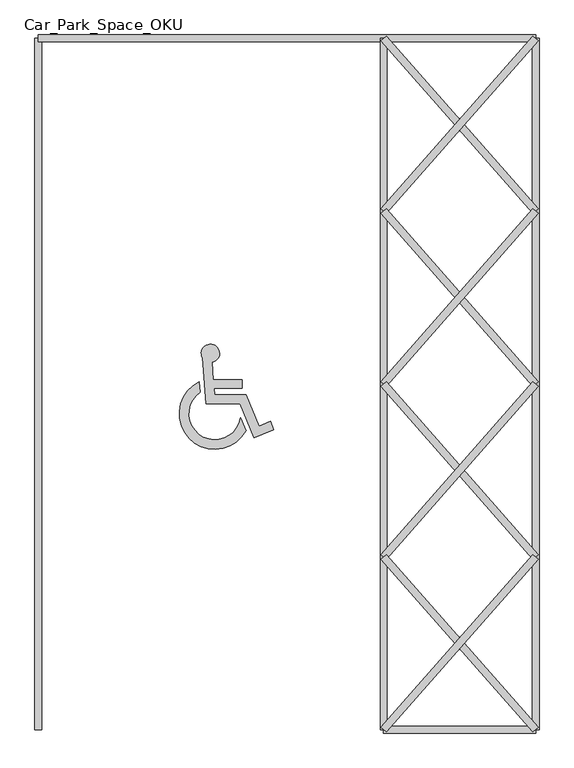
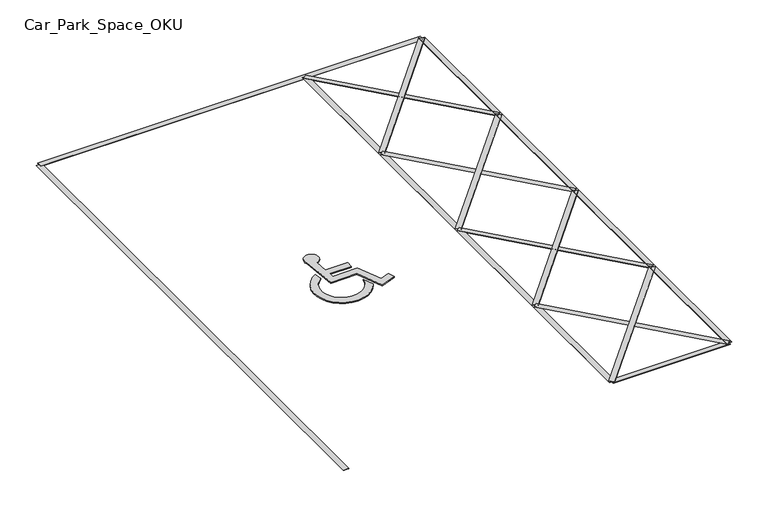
"""IFC4 building model written with IfcOpenShell, lengths in millimetres: proxy geometry, Car_Park_Space_OKU : OKU-PJC 3600X5000."""

from ifc_helpers import new_model, si_unit, point, frame_2d, origin, origin_with_axes, place, context, project, spatial, polyline, circle_curve, trimmed, segment, composite_curve, outline, extrude, source, transform, mapped, element, save


def car_park_space_oku_3797e2ba(model_context):
    return source(origin(), model_context, "Body", "SweptSolid", [
        extrude(outline(composite_curve([segment(trimmed(circle_curve(frame_2d((1277.7222674, -2714.7682027)), 257.2702596), [point((1502.7534435, -2839.4636565))], [point((1164.563134, -2483.720595))], False, "CARTESIAN"), True, "CONTINUOUS"), segment(polyline([(1164.563134, -2483.720595), (1170.347523, -2559.6080328)]), True, "CONTINUOUS"), segment(trimmed(circle_curve(frame_2d((1277.7222674, -2714.7682027)), 188.6902596), [point((1170.347523, -2559.6080328))], [point((1464.0788255, -2744.3527812))], True, "CARTESIAN"), True, "CONTINUOUS"), segment(polyline([(1464.0788255, -2744.3527812), (1502.7534435, -2839.4636565)]), True, "CONTINUOUS")], self_intersect=False)), origin_with_axes(), (0.0, 0.0, 1.0), 10.0),
        extrude(outline(composite_curve([segment(polyline([(1560.7002448, -2889.2102599), (1460.9999699, -2644.0215315), (1214.1231059, -2644.0215315), (1188.8024065, -2311.8303497)]), True, "CONTINUOUS"), segment(trimmed(circle_curve(frame_2d((1245.6043949, -2278.1336781)), 66.0449209), [point((1188.8024065, -2311.8303497))], [point((1256.5386145, -2343.2671903))], False, "CARTESIAN"), True, "CONTINUOUS"), segment(polyline([(1256.5386145, -2343.2671903), (1266.1998714, -2470.0166249), (1475.2428621, -2470.0166249), (1475.2428621, -2531.7092718), (1270.9022869, -2531.7092718), (1274.4970725, -2578.8705315), (1504.8390947, -2578.8705315), (1596.6547828, -2804.669024), (1681.9646244, -2770.5597728), (1703.1291965, -2832.2631972), (1560.7002448, -2889.2102599)]), True, "CONTINUOUS")], self_intersect=False)), origin_with_axes(), (0.0, 0.0, 1.0), 10.0),
        extrude(outline(polyline([(2518.7678379, -5016.5156974), (2481.2321621, -4983.4843026), (3581.2321621, -3733.4843026), (3618.7678379, -3766.5156974), (2518.7678379, -5016.5156974)])), origin_with_axes(), (0.0, 0.0, 1.0), 3.175),
        extrude(outline(polyline([(3618.7678379, -4983.4843026), (3581.2321621, -5016.5156974), (2481.2321621, -3766.5156974), (2518.7678379, -3733.4843026), (3618.7678379, -4983.4843026)])), origin_with_axes(), (0.0, 0.0, 1.0), 3.175),
        extrude(outline(polyline([(2518.7678379, -3766.5156974), (2481.2321621, -3733.4843026), (3581.2321621, -2483.4843026), (3618.7678379, -2516.5156974), (2518.7678379, -3766.5156974)])), origin_with_axes(), (0.0, 0.0, 1.0), 3.175),
        extrude(outline(polyline([(3618.7678379, -3733.4843026), (3581.2321621, -3766.5156974), (2481.2321621, -2516.5156974), (2518.7678379, -2483.4843026), (3618.7678379, -3733.4843026)])), origin_with_axes(), (0.0, 0.0, 1.0), 3.175),
        extrude(outline(polyline([(2518.7678379, -2516.5156974), (2481.2321621, -2483.4843026), (3581.2321621, -1233.4843026), (3618.7678379, -1266.5156974), (2518.7678379, -2516.5156974)])), origin_with_axes(), (0.0, 0.0, 1.0), 3.175),
        extrude(outline(polyline([(3618.7678379, -2483.4843026), (3581.2321621, -2516.5156974), (2481.2321621, -1266.5156974), (2518.7678379, -1233.4843026), (3618.7678379, -2483.4843026)])), origin_with_axes(), (0.0, 0.0, 1.0), 3.175),
        extrude(outline(polyline([(2518.7678379, -1266.5156974), (2481.2321621, -1233.4843026), (3581.2321621, 16.5156974), (3618.7678379, -16.5156974), (2518.7678379, -1266.5156974)])), origin_with_axes(), (0.0, 0.0, 1.0), 3.175),
        extrude(outline(polyline([(3618.7678379, -1233.4843026), (3581.2321621, -1266.5156974), (2481.2321621, -16.5156974), (2518.7678379, 16.5156974), (3618.7678379, -1233.4843026)])), origin_with_axes(), (0.0, 0.0, 1.0), 3.175),
        extrude(outline(polyline([(2475.0, 0.0), (2525.0, 0.0), (2525.0, -5000.0), (2475.0, -5000.0), (2475.0, 0.0)])), origin_with_axes(), (0.0, 0.0, 1.0), 3.175),
        extrude(outline(polyline([(3600.0, -4975.0), (3600.0, -5025.0), (2500.0, -5025.0), (2500.0, -4975.0), (3600.0, -4975.0)])), origin_with_axes(), (0.0, 0.0, 1.0), 3.175),
        extrude(outline(polyline([(3600.0, 25.0), (3600.0, -25.0), (0.0, -25.0), (0.0, 25.0), (3600.0, 25.0)])), origin_with_axes(), (0.0, 0.0, 1.0), 3.175),
        extrude(outline(polyline([(3575.0, 0.0), (3625.0, 0.0), (3625.0, -5000.0), (3575.0, -5000.0), (3575.0, 0.0)])), origin_with_axes(), (0.0, 0.0, 1.0), 3.175),
        extrude(outline(polyline([(-25.0, 0.0), (25.0, 0.0), (25.0, -5000.0), (-25.0, -5000.0), (-25.0, 0.0)])), origin_with_axes(), (0.0, 0.0, 1.0), 3.175),
    ])


if __name__ == "__main__":
    model = new_model("IFC4")
    model_context = context("Model", 3, world=origin())
    ifc_project = project(units=[si_unit("LENGTHUNIT", "METRE", prefix="MILLI")], contexts=[model_context])
    site = spatial("IfcSite", under=ifc_project)
    building = spatial("IfcBuilding", under=site)
    placement = place(None, origin())
    car_park_space_oku_shape = car_park_space_oku_3797e2ba(model_context)
    element("IfcBuildingElementProxy", 1, Name="Car_Park_Space_OKU : OKU-PJC 3600X5000", ObjectType="Car_Park_Space_OKU : OKU-PJC 3600X5000", at=placement, inside=building, context=model_context, shape_type="MappedRepresentation", body=[
        mapped(car_park_space_oku_shape, transform((0.0, 0.0, 0.0), x_axis=(1.0, 0.0, 0.0), y_axis=(0.0, 1.0, 0.0), z_axis=(0.0, 0.0, 1.0))),
    ])
    save(model, "model.ifc")
